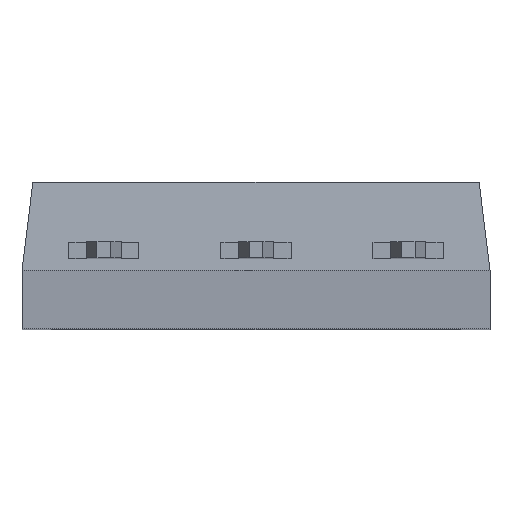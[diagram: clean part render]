
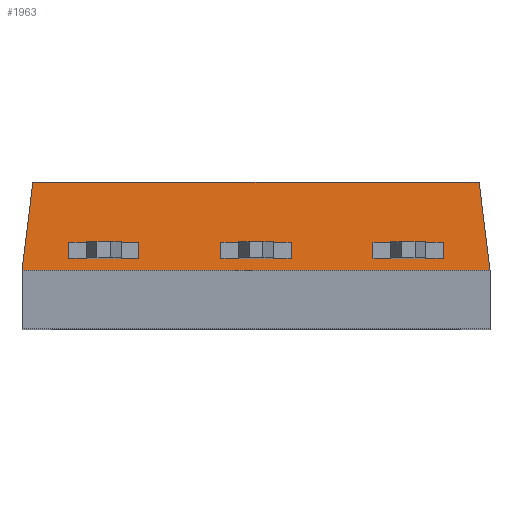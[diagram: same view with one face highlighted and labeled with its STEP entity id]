
A CAD part, top view. The second image highlights one B-rep face of the part: STEP entity #1963.
In plain terms, the highlighted planar face has unit normal (0, 0.087, 0.996).
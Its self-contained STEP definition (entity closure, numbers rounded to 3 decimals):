
#2 = DIRECTION ( 'NONE',  ( 1., 0., 0. ) ) ;
#8 = VECTOR ( 'NONE', #242, 1000. ) ;
#33 = CARTESIAN_POINT ( 'NONE',  ( -8., 0., 10.75 ) ) ;
#38 = CARTESIAN_POINT ( 'NONE',  ( -8., 0.4, 10.715 ) ) ;
#41 = CARTESIAN_POINT ( 'NONE',  ( -8., 3.02, 10.486 ) ) ;
#53 = DIRECTION ( 'NONE',  ( 0., 0.996, -0.087 ) ) ;
#64 = CARTESIAN_POINT ( 'NONE',  ( -4.1, 0.95, 10.667 ) ) ;
#104 = ORIENTED_EDGE ( 'NONE', *, *, #2211, .T. ) ;
#126 = VERTEX_POINT ( 'NONE', #1353 ) ;
#176 = ORIENTED_EDGE ( 'NONE', *, *, #712, .F. ) ;
#179 = VECTOR ( 'NONE', #982, 1000. ) ;
#194 = DIRECTION ( 'NONE',  ( 0.121, -0.989, 0.087 ) ) ;
#198 = CARTESIAN_POINT ( 'NONE',  ( -7.629, 3.02, 10.486 ) ) ;
#221 = CARTESIAN_POINT ( 'NONE',  ( 1.1, 0.933, 10.668 ) ) ;
#222 = CARTESIAN_POINT ( 'NONE',  ( -4.1, 0.4, 10.715 ) ) ;
#242 = DIRECTION ( 'NONE',  ( 1., 0., 0. ) ) ;
#258 = VECTOR ( 'NONE', #1597, 1000. ) ;
#278 = PLANE ( 'NONE',  #686 ) ;
#285 = DIRECTION ( 'NONE',  ( 0., 0.996, -0.087 ) ) ;
#289 = VERTEX_POINT ( 'NONE', #399 ) ;
#307 = DIRECTION ( 'NONE',  ( 1., 0., 0. ) ) ;
#349 = DIRECTION ( 'NONE',  ( 1., 0., 0. ) ) ;
#393 = VERTEX_POINT ( 'NONE', #33 ) ;
#396 = DIRECTION ( 'NONE',  ( 0., 0.996, -0.087 ) ) ;
#399 = CARTESIAN_POINT ( 'NONE',  ( 6.3, 0.4, 10.715 ) ) ;
#402 = EDGE_CURVE ( 'NONE', #1462, #1300, #1906, .T. ) ;
#463 = VERTEX_POINT ( 'NONE', #198 ) ;
#465 = CARTESIAN_POINT ( 'NONE',  ( -6.3, 0.4, 10.715 ) ) ;
#498 = LINE ( 'NONE', #1744, #1449 ) ;
#502 = CARTESIAN_POINT ( 'NONE',  ( -1.1, 0.4, 10.715 ) ) ;
#523 = ORIENTED_EDGE ( 'NONE', *, *, #1217, .T. ) ;
#536 = EDGE_CURVE ( 'NONE', #2120, #1001, #1959, .T. ) ;
#609 = LINE ( 'NONE', #1819, #616 ) ;
#610 = FACE_BOUND ( 'NONE', #1511, .T. ) ;
#616 = VECTOR ( 'NONE', #285, 1000. ) ;
#625 = CARTESIAN_POINT ( 'NONE',  ( -7.887, 0.92, 10.67 ) ) ;
#628 = LINE ( 'NONE', #1845, #1312 ) ;
#649 = ORIENTED_EDGE ( 'NONE', *, *, #1024, .T. ) ;
#650 = VECTOR ( 'NONE', #349, 1000. ) ;
#666 = ORIENTED_EDGE ( 'NONE', *, *, #1410, .F. ) ;
#677 = LINE ( 'NONE', #41, #759 ) ;
#686 = AXIS2_PLACEMENT_3D ( 'NONE', #960, #1658, #307 ) ;
#696 = VERTEX_POINT ( 'NONE', #465 ) ;
#712 = EDGE_CURVE ( 'NONE', #1446, #1300, #1648, .T. ) ;
#726 = EDGE_CURVE ( 'NONE', #126, #1014, #1851, .T. ) ;
#759 = VECTOR ( 'NONE', #1373, 1000. ) ;
#775 = EDGE_CURVE ( 'NONE', #393, #927, #1521, .T. ) ;
#783 = FACE_BOUND ( 'NONE', #2189, .T. ) ;
#803 = VERTEX_POINT ( 'NONE', #1707 ) ;
#828 = VECTOR ( 'NONE', #1404, 1000. ) ;
#895 = CARTESIAN_POINT ( 'NONE',  ( 1.1, 0.95, 10.667 ) ) ;
#927 = VERTEX_POINT ( 'NONE', #1065 ) ;
#934 = VECTOR ( 'NONE', #396, 1000. ) ;
#936 = EDGE_CURVE ( 'NONE', #289, #1014, #1448, .T. ) ;
#942 = VERTEX_POINT ( 'NONE', #895 ) ;
#943 = EDGE_LOOP ( 'NONE', ( #104, #1206, #666, #1399 ) ) ;
#960 = CARTESIAN_POINT ( 'NONE',  ( -8., 0.933, 10.668 ) ) ;
#982 = DIRECTION ( 'NONE',  ( 0., 0.996, -0.087 ) ) ;
#1001 = VERTEX_POINT ( 'NONE', #1283 ) ;
#1014 = VERTEX_POINT ( 'NONE', #2109 ) ;
#1024 = EDGE_CURVE ( 'NONE', #696, #1462, #609, .T. ) ;
#1043 = ORIENTED_EDGE ( 'NONE', *, *, #726, .T. ) ;
#1062 = EDGE_LOOP ( 'NONE', ( #1350, #1140, #1156, #1465 ) ) ;
#1065 = CARTESIAN_POINT ( 'NONE',  ( 8., 0., 10.75 ) ) ;
#1094 = ORIENTED_EDGE ( 'NONE', *, *, #1356, .F. ) ;
#1110 = VERTEX_POINT ( 'NONE', #2163 ) ;
#1140 = ORIENTED_EDGE ( 'NONE', *, *, #1280, .F. ) ;
#1156 = ORIENTED_EDGE ( 'NONE', *, *, #1890, .F. ) ;
#1166 = VECTOR ( 'NONE', #1905, 1000. ) ;
#1206 = ORIENTED_EDGE ( 'NONE', *, *, #1653, .T. ) ;
#1217 = EDGE_CURVE ( 'NONE', #1378, #126, #1573, .T. ) ;
#1229 = CARTESIAN_POINT ( 'NONE',  ( -1.1, 0.933, 10.668 ) ) ;
#1260 = DIRECTION ( 'NONE',  ( 1., 0., 0. ) ) ;
#1261 = EDGE_CURVE ( 'NONE', #1110, #927, #498, .T. ) ;
#1280 = EDGE_CURVE ( 'NONE', #463, #1110, #677, .T. ) ;
#1283 = CARTESIAN_POINT ( 'NONE',  ( 1.1, 0.4, 10.715 ) ) ;
#1292 = ORIENTED_EDGE ( 'NONE', *, *, #2175, .F. ) ;
#1300 = VERTEX_POINT ( 'NONE', #64 ) ;
#1306 = DIRECTION ( 'NONE',  ( 0.121, 0.989, -0.087 ) ) ;
#1312 = VECTOR ( 'NONE', #1661, 1000. ) ;
#1350 = ORIENTED_EDGE ( 'NONE', *, *, #1261, .F. ) ;
#1353 = CARTESIAN_POINT ( 'NONE',  ( 4.1, 0.95, 10.667 ) ) ;
#1356 = EDGE_CURVE ( 'NONE', #696, #1446, #1605, .T. ) ;
#1373 = DIRECTION ( 'NONE',  ( 1., 0., 0. ) ) ;
#1378 = VERTEX_POINT ( 'NONE', #1441 ) ;
#1387 = CARTESIAN_POINT ( 'NONE',  ( -8., 0.4, 10.715 ) ) ;
#1397 = LINE ( 'NONE', #1229, #1166 ) ;
#1399 = ORIENTED_EDGE ( 'NONE', *, *, #536, .F. ) ;
#1404 = DIRECTION ( 'NONE',  ( 0., 0.996, -0.087 ) ) ;
#1410 = EDGE_CURVE ( 'NONE', #1001, #942, #1960, .T. ) ;
#1424 = CARTESIAN_POINT ( 'NONE',  ( 6.3, 0.933, 10.668 ) ) ;
#1441 = CARTESIAN_POINT ( 'NONE',  ( 4.1, 0.4, 10.715 ) ) ;
#1446 = VERTEX_POINT ( 'NONE', #222 ) ;
#1448 = LINE ( 'NONE', #1424, #934 ) ;
#1449 = VECTOR ( 'NONE', #194, 1000. ) ;
#1462 = VERTEX_POINT ( 'NONE', #2118 ) ;
#1465 = ORIENTED_EDGE ( 'NONE', *, *, #775, .T. ) ;
#1511 = EDGE_LOOP ( 'NONE', ( #1292, #523, #1043, #1919 ) ) ;
#1514 = CARTESIAN_POINT ( 'NONE',  ( -4.1, 0.933, 10.668 ) ) ;
#1521 = LINE ( 'NONE', #2069, #650 ) ;
#1541 = ORIENTED_EDGE ( 'NONE', *, *, #402, .T. ) ;
#1573 = LINE ( 'NONE', #2072, #828 ) ;
#1597 = DIRECTION ( 'NONE',  ( 1., 0., 0. ) ) ;
#1605 = LINE ( 'NONE', #1778, #8 ) ;
#1612 = LINE ( 'NONE', #625, #2196 ) ;
#1648 = LINE ( 'NONE', #1514, #179 ) ;
#1653 = EDGE_CURVE ( 'NONE', #803, #942, #628, .T. ) ;
#1658 = DIRECTION ( 'NONE',  ( 0., 0.087, 0.996 ) ) ;
#1661 = DIRECTION ( 'NONE',  ( 1., 0., 0. ) ) ;
#1671 = VECTOR ( 'NONE', #53, 1000. ) ;
#1681 = DIRECTION ( 'NONE',  ( 1., 0., 0. ) ) ;
#1707 = CARTESIAN_POINT ( 'NONE',  ( -1.1, 0.95, 10.667 ) ) ;
#1744 = CARTESIAN_POINT ( 'NONE',  ( 7.651, 2.84, 10.501 ) ) ;
#1778 = CARTESIAN_POINT ( 'NONE',  ( -8., 0.4, 10.715 ) ) ;
#1808 = FACE_BOUND ( 'NONE', #943, .T. ) ;
#1819 = CARTESIAN_POINT ( 'NONE',  ( -6.3, 0.933, 10.668 ) ) ;
#1843 = CARTESIAN_POINT ( 'NONE',  ( -8., 0.95, 10.667 ) ) ;
#1845 = CARTESIAN_POINT ( 'NONE',  ( -8., 0.95, 10.667 ) ) ;
#1851 = LINE ( 'NONE', #1843, #2119 ) ;
#1890 = EDGE_CURVE ( 'NONE', #393, #463, #1612, .T. ) ;
#1905 = DIRECTION ( 'NONE',  ( 0., 0.996, -0.087 ) ) ;
#1906 = LINE ( 'NONE', #2090, #2042 ) ;
#1919 = ORIENTED_EDGE ( 'NONE', *, *, #936, .F. ) ;
#1959 = LINE ( 'NONE', #38, #1976 ) ;
#1960 = LINE ( 'NONE', #221, #1671 ) ;
#1963 = ADVANCED_FACE ( 'NONE', ( #1808, #783, #610, #1982 ), #278, .T. ) ;
#1976 = VECTOR ( 'NONE', #1260, 1000. ) ;
#1982 = FACE_OUTER_BOUND ( 'NONE', #1062, .T. ) ;
#2042 = VECTOR ( 'NONE', #2, 1000. ) ;
#2069 = CARTESIAN_POINT ( 'NONE',  ( -8., 0., 10.75 ) ) ;
#2072 = CARTESIAN_POINT ( 'NONE',  ( 4.1, 0.933, 10.668 ) ) ;
#2075 = LINE ( 'NONE', #1387, #258 ) ;
#2090 = CARTESIAN_POINT ( 'NONE',  ( -8., 0.95, 10.667 ) ) ;
#2109 = CARTESIAN_POINT ( 'NONE',  ( 6.3, 0.95, 10.667 ) ) ;
#2118 = CARTESIAN_POINT ( 'NONE',  ( -6.3, 0.95, 10.667 ) ) ;
#2119 = VECTOR ( 'NONE', #1681, 1000. ) ;
#2120 = VERTEX_POINT ( 'NONE', #502 ) ;
#2163 = CARTESIAN_POINT ( 'NONE',  ( 7.629, 3.02, 10.486 ) ) ;
#2175 = EDGE_CURVE ( 'NONE', #1378, #289, #2075, .T. ) ;
#2189 = EDGE_LOOP ( 'NONE', ( #649, #1541, #176, #1094 ) ) ;
#2196 = VECTOR ( 'NONE', #1306, 1000. ) ;
#2211 = EDGE_CURVE ( 'NONE', #2120, #803, #1397, .T. ) ;
